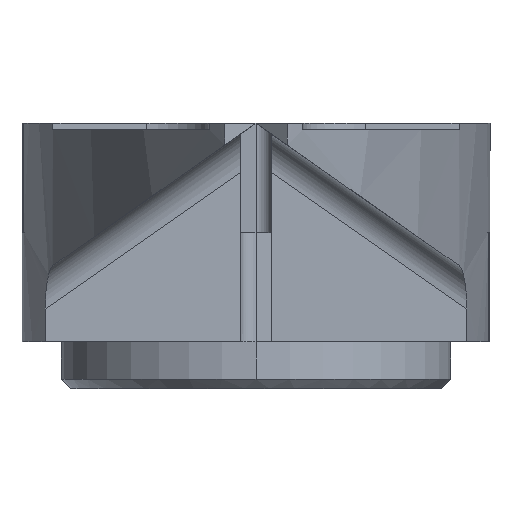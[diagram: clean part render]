
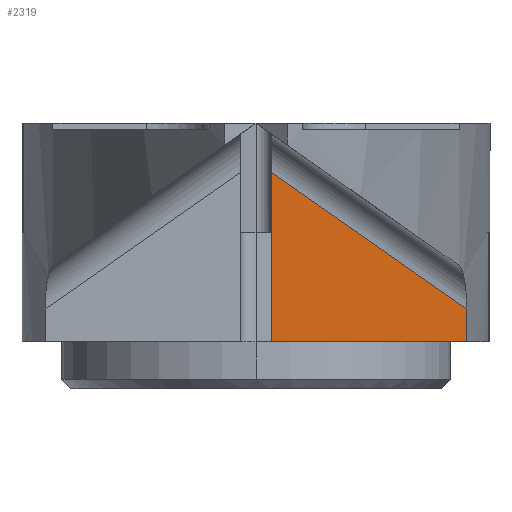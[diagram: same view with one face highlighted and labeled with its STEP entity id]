
A CAD part, left-side view. The second image highlights one B-rep face of the part: STEP entity #2319.
In plain terms, the highlighted planar face has unit normal (-1, 0, 0).
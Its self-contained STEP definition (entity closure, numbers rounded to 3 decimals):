
#100 = VERTEX_POINT ( 'NONE', #2757 ) ;
#427 = LINE ( 'NONE', #785, #3152 ) ;
#536 = VECTOR ( 'NONE', #2649, 1000. ) ;
#785 = CARTESIAN_POINT ( 'NONE',  ( -10., -6.754, -3.5 ) ) ;
#1123 = LINE ( 'NONE', #1998, #3448 ) ;
#1186 = VERTEX_POINT ( 'NONE', #2482 ) ;
#1513 = VERTEX_POINT ( 'NONE', #2543 ) ;
#1646 = EDGE_CURVE ( 'NONE', #100, #1186, #1123, .T. ) ;
#1668 = ORIENTED_EDGE ( 'NONE', *, *, #1646, .T. ) ;
#1805 = FACE_OUTER_BOUND ( 'NONE', #4041, .T. ) ;
#1998 = CARTESIAN_POINT ( 'NONE',  ( -10., -6.754, -5.95 ) ) ;
#2312 = ORIENTED_EDGE ( 'NONE', *, *, #3461, .T. ) ;
#2319 = ADVANCED_FACE ( 'NONE', ( #1805 ), #4044, .T. ) ;
#2422 = ORIENTED_EDGE ( 'NONE', *, *, #2913, .T. ) ;
#2482 = CARTESIAN_POINT ( 'NONE',  ( -10., -0.5, -1.571 ) ) ;
#2543 = CARTESIAN_POINT ( 'NONE',  ( -10., -6.754, -7. ) ) ;
#2615 = ORIENTED_EDGE ( 'NONE', *, *, #3167, .F. ) ;
#2649 = DIRECTION ( 'NONE',  ( 0., -1., 0. ) ) ;
#2757 = CARTESIAN_POINT ( 'NONE',  ( -10., -6.754, -5.95 ) ) ;
#2834 = CARTESIAN_POINT ( 'NONE',  ( -10., -7.38, -7.543 ) ) ;
#2913 = EDGE_CURVE ( 'NONE', #1186, #3632, #4117, .T. ) ;
#2938 = AXIS2_PLACEMENT_3D ( 'NONE', #2834, #3973, #3022 ) ;
#2978 = LINE ( 'NONE', #3284, #536 ) ;
#3022 = DIRECTION ( 'NONE',  ( 0., 0., 1. ) ) ;
#3152 = VECTOR ( 'NONE', #3337, 1000. ) ;
#3167 = EDGE_CURVE ( 'NONE', #100, #1513, #427, .T. ) ;
#3197 = VECTOR ( 'NONE', #3220, 1000. ) ;
#3220 = DIRECTION ( 'NONE',  ( 0., 0., -1. ) ) ;
#3284 = CARTESIAN_POINT ( 'NONE',  ( -10., -3.627, -7. ) ) ;
#3337 = DIRECTION ( 'NONE',  ( 0., 0., -1. ) ) ;
#3448 = VECTOR ( 'NONE', #3896, 1000. ) ;
#3461 = EDGE_CURVE ( 'NONE', #3632, #1513, #2978, .T. ) ;
#3519 = CARTESIAN_POINT ( 'NONE',  ( -10., -0.5, -4.285 ) ) ;
#3632 = VERTEX_POINT ( 'NONE', #3988 ) ;
#3896 = DIRECTION ( 'NONE',  ( 0., 0.819, 0.574 ) ) ;
#3973 = DIRECTION ( 'NONE',  ( -1., 0., 0. ) ) ;
#3988 = CARTESIAN_POINT ( 'NONE',  ( -10., -0.5, -7. ) ) ;
#4041 = EDGE_LOOP ( 'NONE', ( #2615, #1668, #2422, #2312 ) ) ;
#4044 = PLANE ( 'NONE',  #2938 ) ;
#4117 = LINE ( 'NONE', #3519, #3197 ) ;
